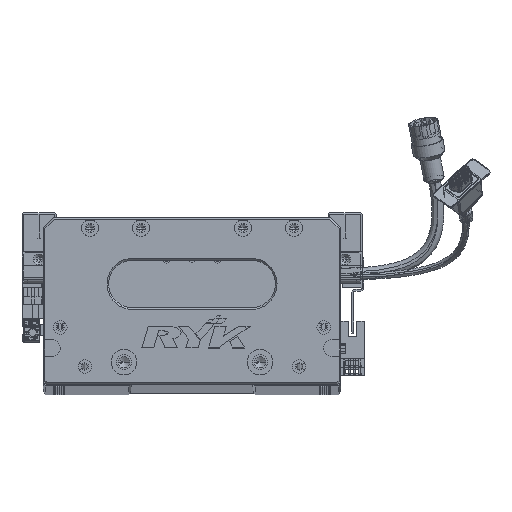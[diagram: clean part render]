
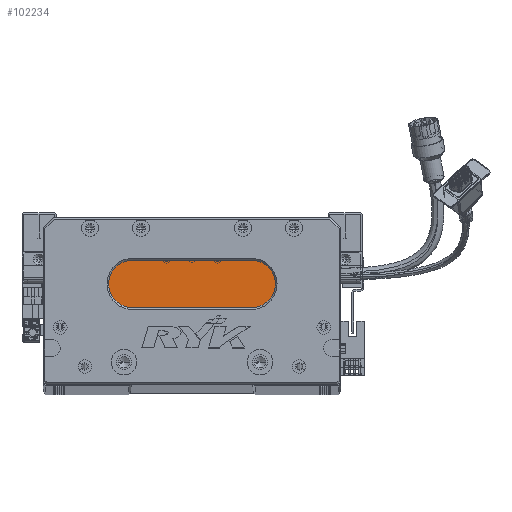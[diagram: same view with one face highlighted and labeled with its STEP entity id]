
A CAD part, top view. The second image highlights one B-rep face of the part: STEP entity #102234.
In plain terms, the highlighted planar face has unit normal (0, 0, 1) as drawn and (0, 0, -1) by its records, which use the part's own axes.
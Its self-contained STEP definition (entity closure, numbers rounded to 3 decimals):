
#3938 = CARTESIAN_POINT ( 'NONE',  ( 122.5, 59., 18. ) ) ;
#5738 = AXIS2_PLACEMENT_3D ( 'NONE', #69509, #27904, #81123 ) ;
#10659 = VECTOR ( 'NONE', #123044, 1000. ) ;
#15952 = DIRECTION ( 'NONE',  ( -1., 0., 0. ) ) ;
#18800 = EDGE_LOOP ( 'NONE', ( #26345, #47354, #53749, #117986, #91352 ) ) ;
#20132 = EDGE_CURVE ( 'NONE', #134938, #97282, #119820, .T. ) ;
#20270 = AXIS2_PLACEMENT_3D ( 'NONE', #47447, #101600, #121448 ) ;
#20563 = FACE_OUTER_BOUND ( 'NONE', #18800, .T. ) ;
#23314 = AXIS2_PLACEMENT_3D ( 'NONE', #3938, #24709, #15952 ) ;
#23720 = CARTESIAN_POINT ( 'NONE',  ( 122.5, 59., 18. ) ) ;
#24572 = LINE ( 'NONE', #56058, #89111 ) ;
#24709 = DIRECTION ( 'NONE',  ( 0., 0., -1. ) ) ;
#25808 = CARTESIAN_POINT ( 'NONE',  ( 122.5, 45., 18. ) ) ;
#26345 = ORIENTED_EDGE ( 'NONE', *, *, #61645, .T. ) ;
#27904 = DIRECTION ( 'NONE',  ( 0., 0., -1. ) ) ;
#35280 = CARTESIAN_POINT ( 'NONE',  ( 38.5, 59., 18. ) ) ;
#41504 = EDGE_CURVE ( 'NONE', #58174, #91694, #24572, .T. ) ;
#41639 = CARTESIAN_POINT ( 'NONE',  ( 52.5, 45., 18. ) ) ;
#47354 = ORIENTED_EDGE ( 'NONE', *, *, #41504, .T. ) ;
#47361 = PLANE ( 'NONE',  #23314 ) ;
#47447 = CARTESIAN_POINT ( 'NONE',  ( 52.5, 59., 18. ) ) ;
#48597 = CARTESIAN_POINT ( 'NONE',  ( 122.5, 73., 18. ) ) ;
#53749 = ORIENTED_EDGE ( 'NONE', *, *, #58834, .T. ) ;
#56058 = CARTESIAN_POINT ( 'NONE',  ( 122.5, 45., 18. ) ) ;
#56995 = DIRECTION ( 'NONE',  ( -1., 0., 0. ) ) ;
#58174 = VERTEX_POINT ( 'NONE', #25808 ) ;
#58834 = EDGE_CURVE ( 'NONE', #91694, #96447, #80703, .T. ) ;
#61645 = EDGE_CURVE ( 'NONE', #97282, #58174, #98379, .T. ) ;
#67386 = EDGE_CURVE ( 'NONE', #96447, #134938, #135587, .T. ) ;
#69509 = CARTESIAN_POINT ( 'NONE',  ( 52.5, 59., 18. ) ) ;
#75997 = DIRECTION ( 'NONE',  ( 0., 0., -1. ) ) ;
#80703 = CIRCLE ( 'NONE', #5738, 14. ) ;
#81123 = DIRECTION ( 'NONE',  ( -1., 0., 0. ) ) ;
#89111 = VECTOR ( 'NONE', #56995, 1000. ) ;
#91352 = ORIENTED_EDGE ( 'NONE', *, *, #20132, .T. ) ;
#91666 = AXIS2_PLACEMENT_3D ( 'NONE', #23720, #75997, #118965 ) ;
#91694 = VERTEX_POINT ( 'NONE', #41639 ) ;
#95591 = CARTESIAN_POINT ( 'NONE',  ( 122.5, 73., 18. ) ) ;
#96447 = VERTEX_POINT ( 'NONE', #35280 ) ;
#97282 = VERTEX_POINT ( 'NONE', #95591 ) ;
#98379 = CIRCLE ( 'NONE', #91666, 14. ) ;
#101600 = DIRECTION ( 'NONE',  ( 0., 0., -1. ) ) ;
#102234 = ADVANCED_FACE ( 'NONE', ( #20563 ), #47361, .T. ) ;
#113313 = CARTESIAN_POINT ( 'NONE',  ( 52.5, 73., 18. ) ) ;
#117986 = ORIENTED_EDGE ( 'NONE', *, *, #67386, .T. ) ;
#118965 = DIRECTION ( 'NONE',  ( -1., 0., 0. ) ) ;
#119820 = LINE ( 'NONE', #48597, #10659 ) ;
#121448 = DIRECTION ( 'NONE',  ( -1., 0., 0. ) ) ;
#123044 = DIRECTION ( 'NONE',  ( 1., 0., 0. ) ) ;
#134938 = VERTEX_POINT ( 'NONE', #113313 ) ;
#135587 = CIRCLE ( 'NONE', #20270, 14. ) ;
